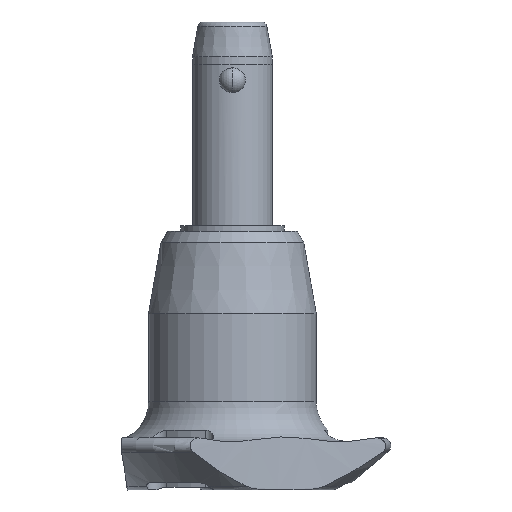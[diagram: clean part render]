
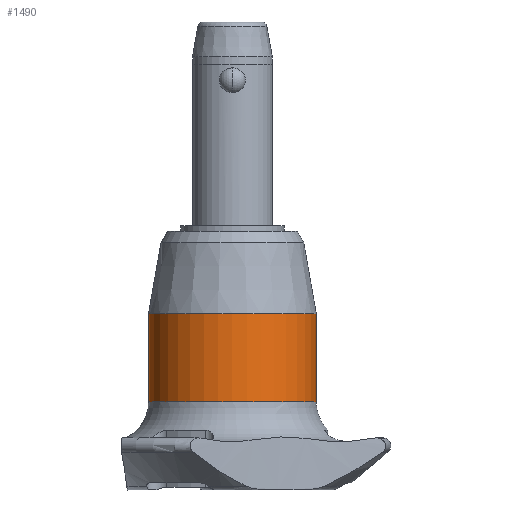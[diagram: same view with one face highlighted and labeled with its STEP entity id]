
A CAD part, front view. The second image highlights one B-rep face of the part: STEP entity #1490.
In plain terms, the highlighted cylindrical face has radius 12.6 mm (diameter 25.2 mm), a partial arc.
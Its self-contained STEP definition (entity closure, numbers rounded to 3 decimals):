
#175 = DIRECTION ( 'NONE',  ( -1., 0., 0. ) ) ;
#213 = CARTESIAN_POINT ( 'NONE',  ( 12.6, 0., -33.233 ) ) ;
#252 = DIRECTION ( 'NONE',  ( 0., 0., -1. ) ) ;
#331 = DIRECTION ( 'NONE',  ( 0., 0., -1. ) ) ;
#390 = VERTEX_POINT ( 'NONE', #213 ) ;
#431 = VECTOR ( 'NONE', #1714, 1000. ) ;
#459 = VERTEX_POINT ( 'NONE', #2534 ) ;
#544 = DIRECTION ( 'NONE',  ( 0., 0., -1. ) ) ;
#554 = CARTESIAN_POINT ( 'NONE',  ( 12.6, 0., -46.467 ) ) ;
#565 = CIRCLE ( 'NONE', #2493, 12.6 ) ;
#596 = CARTESIAN_POINT ( 'NONE',  ( 0., 0., -46.467 ) ) ;
#739 = ORIENTED_EDGE ( 'NONE', *, *, #1809, .T. ) ;
#772 = CARTESIAN_POINT ( 'NONE',  ( 0., 0., -33.233 ) ) ;
#829 = FACE_OUTER_BOUND ( 'NONE', #1615, .T. ) ;
#952 = EDGE_CURVE ( 'NONE', #390, #2191, #565, .T. ) ;
#1000 = AXIS2_PLACEMENT_3D ( 'NONE', #596, #2187, #175 ) ;
#1003 = CARTESIAN_POINT ( 'NONE',  ( 0., 0., -46.467 ) ) ;
#1301 = CYLINDRICAL_SURFACE ( 'NONE', #1000, 12.6 ) ;
#1406 = EDGE_CURVE ( 'NONE', #390, #459, #1669, .T. ) ;
#1490 = ADVANCED_FACE ( 'NONE', ( #829 ), #1301, .T. ) ;
#1509 = LINE ( 'NONE', #2904, #431 ) ;
#1543 = ORIENTED_EDGE ( 'NONE', *, *, #1406, .F. ) ;
#1615 = EDGE_LOOP ( 'NONE', ( #1543, #2338, #739, #2784 ) ) ;
#1669 = LINE ( 'NONE', #554, #2876 ) ;
#1714 = DIRECTION ( 'NONE',  ( 0., 0., -1. ) ) ;
#1720 = DIRECTION ( 'NONE',  ( -1., 0., 0. ) ) ;
#1737 = CARTESIAN_POINT ( 'NONE',  ( -12.6, 0., -33.233 ) ) ;
#1775 = CARTESIAN_POINT ( 'NONE',  ( -12.6, 0., -46.467 ) ) ;
#1809 = EDGE_CURVE ( 'NONE', #2191, #2796, #1509, .T. ) ;
#2187 = DIRECTION ( 'NONE',  ( 0., 0., -1. ) ) ;
#2191 = VERTEX_POINT ( 'NONE', #1737 ) ;
#2278 = DIRECTION ( 'NONE',  ( -1., 0., 0. ) ) ;
#2287 = EDGE_CURVE ( 'NONE', #459, #2796, #2782, .T. ) ;
#2306 = AXIS2_PLACEMENT_3D ( 'NONE', #1003, #252, #2278 ) ;
#2338 = ORIENTED_EDGE ( 'NONE', *, *, #952, .T. ) ;
#2493 = AXIS2_PLACEMENT_3D ( 'NONE', #772, #544, #1720 ) ;
#2534 = CARTESIAN_POINT ( 'NONE',  ( 12.6, 0., -46.467 ) ) ;
#2782 = CIRCLE ( 'NONE', #2306, 12.6 ) ;
#2784 = ORIENTED_EDGE ( 'NONE', *, *, #2287, .F. ) ;
#2796 = VERTEX_POINT ( 'NONE', #1775 ) ;
#2876 = VECTOR ( 'NONE', #331, 1000. ) ;
#2904 = CARTESIAN_POINT ( 'NONE',  ( -12.6, 0., -46.467 ) ) ;
